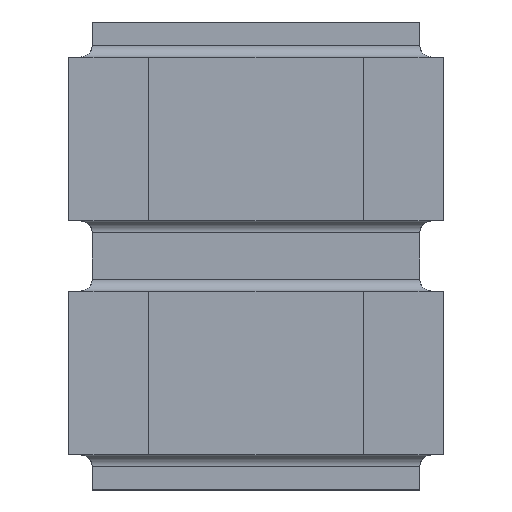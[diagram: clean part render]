
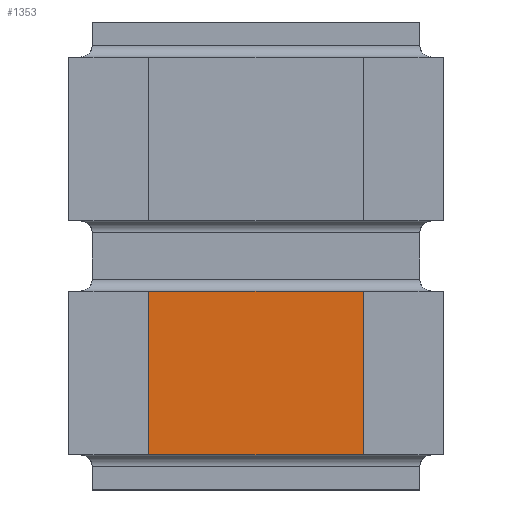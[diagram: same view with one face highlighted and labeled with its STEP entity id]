
A CAD part, top view. The second image highlights one B-rep face of the part: STEP entity #1353.
In plain terms, the highlighted planar face has unit normal (0, 0, 1).
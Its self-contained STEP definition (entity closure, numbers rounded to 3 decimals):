
#91=FACE_OUTER_BOUND('',#174,.T.);
#174=EDGE_LOOP('',(#1027,#1028,#1029,#1030));
#287=LINE('',#2029,#459);
#296=LINE('',#2050,#468);
#300=LINE('',#2063,#472);
#301=LINE('',#2064,#473);
#459=VECTOR('',#1643,10.);
#468=VECTOR('',#1666,10.);
#472=VECTOR('',#1678,10.);
#473=VECTOR('',#1679,10.);
#612=VERTEX_POINT('',#2022);
#615=VERTEX_POINT('',#2027);
#619=VERTEX_POINT('',#2047);
#625=VERTEX_POINT('',#2062);
#754=EDGE_CURVE('',#615,#612,#287,.T.);
#764=EDGE_CURVE('',#619,#615,#296,.T.);
#770=EDGE_CURVE('',#625,#612,#300,.T.);
#771=EDGE_CURVE('',#625,#619,#301,.T.);
#1027=ORIENTED_EDGE('',*,*,#770,.T.);
#1028=ORIENTED_EDGE('',*,*,#754,.F.);
#1029=ORIENTED_EDGE('',*,*,#764,.F.);
#1030=ORIENTED_EDGE('',*,*,#771,.F.);
#1282=PLANE('',#1465);
#1353=ADVANCED_FACE('',(#91),#1282,.T.);
#1465=AXIS2_PLACEMENT_3D('',#2061,#1676,#1677);
#1643=DIRECTION('',(-1.,0.,0.));
#1666=DIRECTION('',(0.,-1.,0.));
#1676=DIRECTION('center_axis',(0.,0.,1.));
#1677=DIRECTION('ref_axis',(1.,0.,0.));
#1678=DIRECTION('',(0.,-1.,0.));
#1679=DIRECTION('',(1.,0.,0.));
#2022=CARTESIAN_POINT('',(0.005,0.15,0.375));
#2027=CARTESIAN_POINT('',(1.595,0.15,0.375));
#2029=CARTESIAN_POINT('',(1.595,0.15,0.375));
#2047=CARTESIAN_POINT('',(1.595,0.85,0.375));
#2050=CARTESIAN_POINT('',(1.595,0.85,0.375));
#2061=CARTESIAN_POINT('Origin',(0.8,0.85,0.375));
#2062=CARTESIAN_POINT('',(0.005,0.85,0.375));
#2063=CARTESIAN_POINT('',(0.005,0.85,0.375));
#2064=CARTESIAN_POINT('',(0.005,0.85,0.375));
